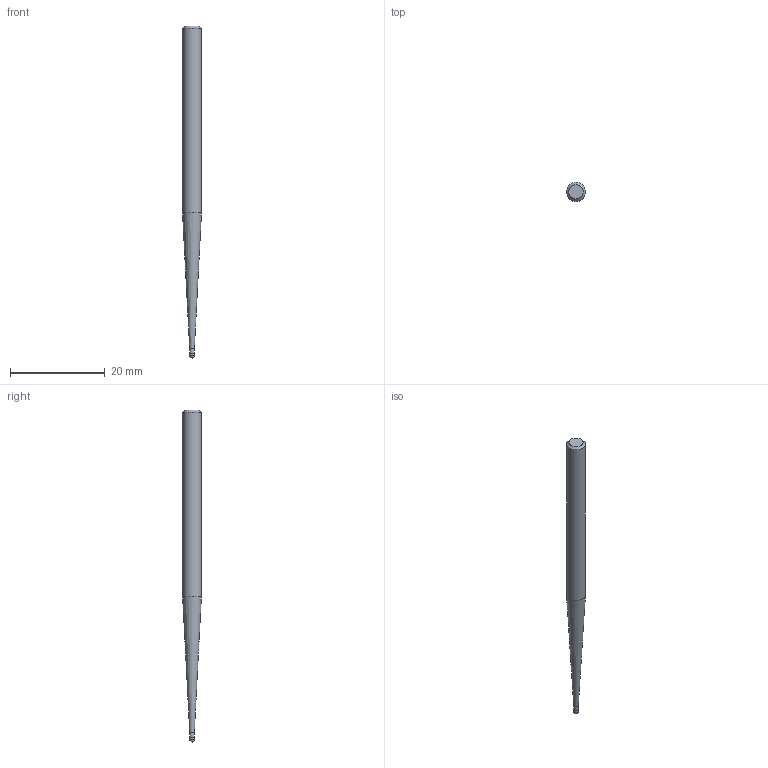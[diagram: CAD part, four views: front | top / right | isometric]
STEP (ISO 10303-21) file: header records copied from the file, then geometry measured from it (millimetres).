
FILE_DESCRIPTION((''),'2;1');
FILE_NAME('C:\Users\nsx150\AppData\Local\Temp\Mastercam 2021\SNAKH10GOD\TEMP.step','2021-10-21T13:32:25',(''),(''),'STEP Write','Mastercam 2021 ... CNC Software, Inc.','');
FILE_SCHEMA(('AUTOMOTIVE_DESIGN'));
Length unit declared in the file: millimetre
Products named in the file (1): None
Bounding box: 4 x 4 x 70 mm (x, y, z)
Volume: 651.7 mm3; surface area: 735.7 mm2
Topology: 2 solids, 2 shells, 9 faces, 14 edges, 8 vertices
Faces by surface type: plane 3, cylinder 3, cone 2, sphere 1
Full cylindrical faces by diameter (mm): 0.985 x1, 1 x1, 4 x1
Entity records: 211 total; most frequent: DIRECTION 36, CARTESIAN_POINT 25, AXIS2_PLACEMENT_3D 18, ORIENTED_EDGE 14, EDGE_LOOP 14, STYLED_ITEM 12, ADVANCED_FACE 9, FACE_BOUND 8
